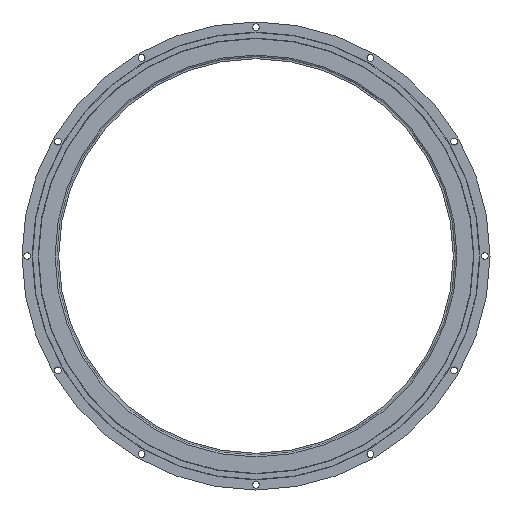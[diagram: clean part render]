
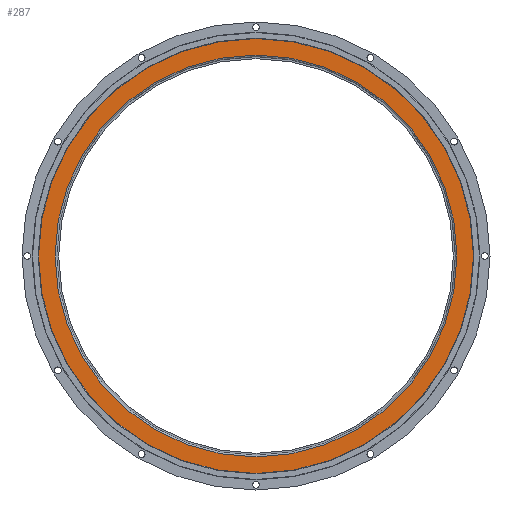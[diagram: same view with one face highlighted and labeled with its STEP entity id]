
A CAD part, left-side view. The second image highlights one B-rep face of the part: STEP entity #287.
In plain terms, the highlighted planar face has unit normal (-1, 0, 0).
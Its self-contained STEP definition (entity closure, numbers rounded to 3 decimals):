
#287=ADVANCED_FACE('',(#632,#634),#636,.T.);
#632=FACE_BOUND('',#633,.T.);
#633=EDGE_LOOP('',(#771));
#634=FACE_BOUND('',#635,.T.);
#635=EDGE_LOOP('',(#772));
#636=PLANE('',#637);
#637=AXIS2_PLACEMENT_3D('',#638,#639,#640);
#638=CARTESIAN_POINT('',(-65.,0.,0.));
#639=DIRECTION('',(-1.,0.,0.));
#640=DIRECTION('',(0.,0.,1.));
#771=ORIENTED_EDGE('',*,*,#822,.T.);
#772=ORIENTED_EDGE('',*,*,#824,.F.);
#822=EDGE_CURVE('',#904,#904,#905,.T.);
#824=EDGE_CURVE('',#908,#908,#909,.T.);
#904=VERTEX_POINT('',#1105);
#905=CIRCLE('',#1106,269.5);
#908=VERTEX_POINT('',#1115);
#909=CIRCLE('',#1116,249.);
#1105=CARTESIAN_POINT('',(-65.,0.,269.5));
#1106=AXIS2_PLACEMENT_3D('',#1107,#1108,#1109);
#1107=CARTESIAN_POINT('',(-65.,0.,0.));
#1108=DIRECTION('',(-1.,0.,0.));
#1109=DIRECTION('',(0.,0.,1.));
#1115=CARTESIAN_POINT('',(-65.,0.,249.));
#1116=AXIS2_PLACEMENT_3D('',#1117,#1118,#1119);
#1117=CARTESIAN_POINT('',(-65.,0.,0.));
#1118=DIRECTION('',(-1.,0.,0.));
#1119=DIRECTION('',(0.,0.,1.));
